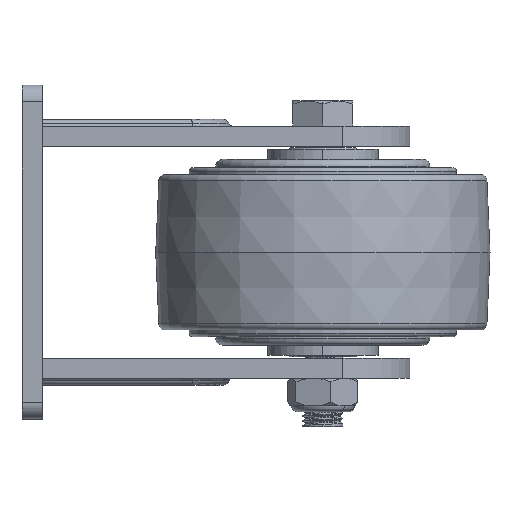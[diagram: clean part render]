
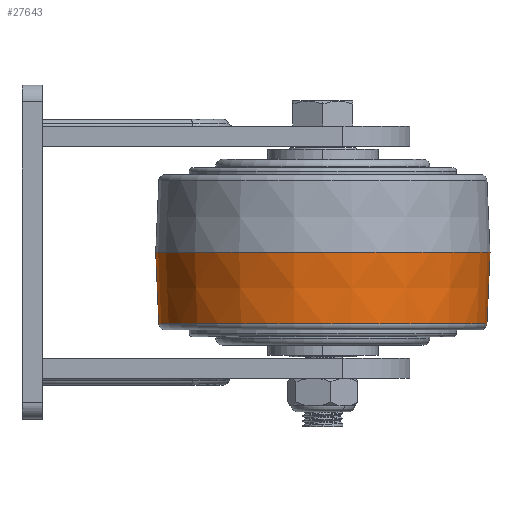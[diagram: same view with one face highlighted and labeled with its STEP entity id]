
A CAD part, left-side view. The second image highlights one B-rep face of the part: STEP entity #27643.
In plain terms, the highlighted conical face has half-angle 2.463 degrees and reference radius 50 mm.
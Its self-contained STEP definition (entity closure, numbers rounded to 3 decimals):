
#737 = ORIENTED_EDGE ( 'NONE', *, *, #20134, .T. ) ;
#1452 = ORIENTED_EDGE ( 'NONE', *, *, #4299, .F. ) ;
#1598 = CARTESIAN_POINT ( 'NONE',  ( 0., 0., 0. ) ) ;
#3359 = CIRCLE ( 'NONE', #19330, 49.082 ) ;
#3907 = ORIENTED_EDGE ( 'NONE', *, *, #4770, .T. ) ;
#4040 = CIRCLE ( 'NONE', #15429, 50. ) ;
#4299 = EDGE_CURVE ( 'NONE', #17531, #24131, #21664, .T. ) ;
#4421 = CARTESIAN_POINT ( 'NONE',  ( 0., -21.336, 49.082 ) ) ;
#4770 = EDGE_CURVE ( 'NONE', #17531, #19878, #3359, .T. ) ;
#5467 = EDGE_CURVE ( 'NONE', #19878, #16235, #18310, .T. ) ;
#6486 = DIRECTION ( 'NONE',  ( 0., 0.999, -0.043 ) ) ;
#6780 = EDGE_LOOP ( 'NONE', ( #3907, #25067, #737, #1452 ) ) ;
#9694 = CARTESIAN_POINT ( 'NONE',  ( 0., 0., 50. ) ) ;
#9869 = DIRECTION ( 'NONE',  ( 0., 1., 0. ) ) ;
#11630 = CARTESIAN_POINT ( 'NONE',  ( 0., 0., -50. ) ) ;
#11683 = CARTESIAN_POINT ( 'NONE',  ( 0., -21.336, -49.082 ) ) ;
#11953 = CARTESIAN_POINT ( 'NONE',  ( 0., 0., 0. ) ) ;
#12413 = CARTESIAN_POINT ( 'NONE',  ( 0., 0., 50. ) ) ;
#13385 = DIRECTION ( 'NONE',  ( 0., 0., -1. ) ) ;
#14590 = FACE_OUTER_BOUND ( 'NONE', #6780, .T. ) ;
#15429 = AXIS2_PLACEMENT_3D ( 'NONE', #11953, #20571, #20424 ) ;
#16018 = DIRECTION ( 'NONE',  ( 0., 0.999, 0.043 ) ) ;
#16235 = VERTEX_POINT ( 'NONE', #12413 ) ;
#16856 = AXIS2_PLACEMENT_3D ( 'NONE', #1598, #9869, #18616 ) ;
#17531 = VERTEX_POINT ( 'NONE', #11683 ) ;
#18012 = VECTOR ( 'NONE', #16018, 1000. ) ;
#18310 = LINE ( 'NONE', #9694, #18012 ) ;
#18616 = DIRECTION ( 'NONE',  ( 0., 0., -1. ) ) ;
#19330 = AXIS2_PLACEMENT_3D ( 'NONE', #21569, #19564, #13385 ) ;
#19564 = DIRECTION ( 'NONE',  ( 0., 1., 0. ) ) ;
#19878 = VERTEX_POINT ( 'NONE', #4421 ) ;
#19941 = CARTESIAN_POINT ( 'NONE',  ( 0., 0., -50. ) ) ;
#20134 = EDGE_CURVE ( 'NONE', #16235, #24131, #4040, .T. ) ;
#20424 = DIRECTION ( 'NONE',  ( 0., 0., -1. ) ) ;
#20571 = DIRECTION ( 'NONE',  ( 0., -1., 0. ) ) ;
#21569 = CARTESIAN_POINT ( 'NONE',  ( 0., -21.336, 0. ) ) ;
#21664 = LINE ( 'NONE', #19941, #24863 ) ;
#24131 = VERTEX_POINT ( 'NONE', #11630 ) ;
#24603 = CONICAL_SURFACE ( 'NONE', #16856, 50., 0.043 ) ;
#24863 = VECTOR ( 'NONE', #6486, 1000. ) ;
#25067 = ORIENTED_EDGE ( 'NONE', *, *, #5467, .T. ) ;
#27643 = ADVANCED_FACE ( 'NONE', ( #14590 ), #24603, .T. ) ;
